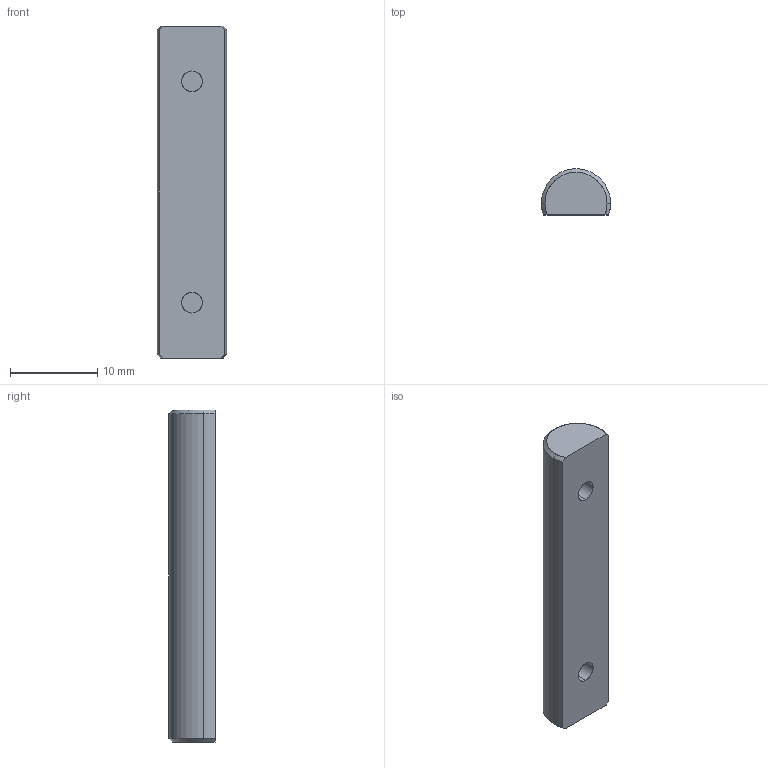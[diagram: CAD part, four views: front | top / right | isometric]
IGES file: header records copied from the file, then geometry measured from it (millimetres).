
Start section: SolidWorks IGES file using analytic representation for surfaces
Global section: file name: D:\Solid_parts\MECHeDESIGN\Bal-Tec\Catalog 105-A\Distribution\IGES\312-TC-BH.IGS; native system: SolidWorks 2005 by SolidWorks Corporation; preprocessor: SolidWorks 2005 by SolidWorks Corporation; author: rvillegas; date: 061205.190002; units: inch
Bounding box: 7.94 x 5.28 x 38.1 mm (x, y, z)
Surface area: 960.3 mm2 (no closed solid volume)
Topology: 0 solids, 0 shells, 18 faces, 230 edges, 230 vertices
Faces by surface type: revolution 13, bspline 5
